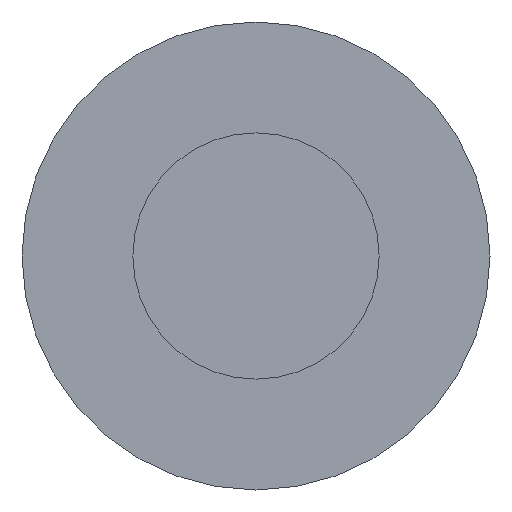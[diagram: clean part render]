
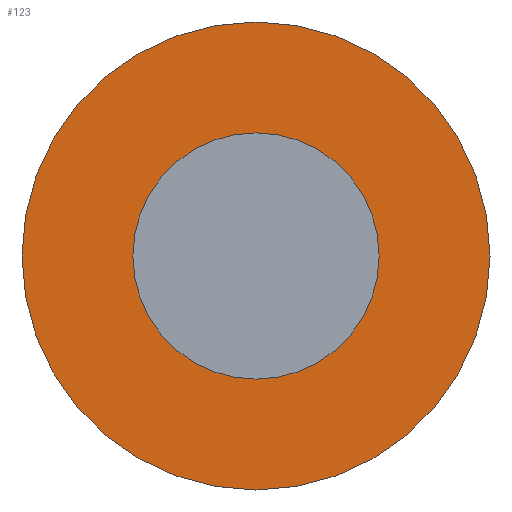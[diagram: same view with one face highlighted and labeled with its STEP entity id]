
A CAD part, front view. The second image highlights one B-rep face of the part: STEP entity #123.
In plain terms, the highlighted planar face has unit normal (0, -1, 0).
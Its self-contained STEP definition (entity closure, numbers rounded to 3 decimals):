
#39 = EDGE_CURVE('',#40,#40,#42,.T.);
#40 = VERTEX_POINT('',#41);
#41 = CARTESIAN_POINT('',(-32.1,11.4,61.5));
#42 = SURFACE_CURVE('',#43,(#48,#60),.PCURVE_S1.);
#43 = CIRCLE('',#44,1.9);
#44 = AXIS2_PLACEMENT_3D('',#45,#46,#47);
#45 = CARTESIAN_POINT('',(-34.,11.4,61.5));
#46 = DIRECTION('',(0.,-1.,0.));
#47 = DIRECTION('',(1.,0.,0.));
#48 = PCURVE('',#49,#54);
#49 = CYLINDRICAL_SURFACE('',#50,1.9);
#50 = AXIS2_PLACEMENT_3D('',#51,#52,#53);
#51 = CARTESIAN_POINT('',(-34.,13.4,61.5));
#52 = DIRECTION('',(0.,-1.,0.));
#53 = DIRECTION('',(1.,0.,0.));
#54 = DEFINITIONAL_REPRESENTATION('',(#55),#59);
#55 = LINE('',#56,#57);
#56 = CARTESIAN_POINT('',(0.,2.));
#57 = VECTOR('',#58,1.);
#58 = DIRECTION('',(1.,0.));
#59 = ( GEOMETRIC_REPRESENTATION_CONTEXT(2) 
PARAMETRIC_REPRESENTATION_CONTEXT() REPRESENTATION_CONTEXT('2D SPACE',''
  ) );
#60 = PCURVE('',#61,#66);
#61 = PLANE('',#62);
#62 = AXIS2_PLACEMENT_3D('',#63,#64,#65);
#63 = CARTESIAN_POINT('',(-34.,11.4,61.5));
#64 = DIRECTION('',(0.,-1.,0.));
#65 = DIRECTION('',(1.,0.,0.));
#66 = DEFINITIONAL_REPRESENTATION('',(#67),#71);
#67 = CIRCLE('',#68,1.9);
#68 = AXIS2_PLACEMENT_2D('',#69,#70);
#69 = CARTESIAN_POINT('',(0.,0.));
#70 = DIRECTION('',(1.,0.));
#71 = ( GEOMETRIC_REPRESENTATION_CONTEXT(2) 
PARAMETRIC_REPRESENTATION_CONTEXT() REPRESENTATION_CONTEXT('2D SPACE',''
  ) );
#123 = ADVANCED_FACE('',(#124,#127),#61,.T.);
#124 = FACE_BOUND('',#125,.T.);
#125 = EDGE_LOOP('',(#126));
#126 = ORIENTED_EDGE('',*,*,#39,.T.);
#127 = FACE_BOUND('',#128,.T.);
#128 = EDGE_LOOP('',(#129));
#129 = ORIENTED_EDGE('',*,*,#130,.F.);
#130 = EDGE_CURVE('',#131,#131,#133,.T.);
#131 = VERTEX_POINT('',#132);
#132 = CARTESIAN_POINT('',(-33.,11.4,61.5));
#133 = SURFACE_CURVE('',#134,(#139,#146),.PCURVE_S1.);
#134 = CIRCLE('',#135,1.);
#135 = AXIS2_PLACEMENT_3D('',#136,#137,#138);
#136 = CARTESIAN_POINT('',(-34.,11.4,61.5));
#137 = DIRECTION('',(0.,-1.,0.));
#138 = DIRECTION('',(1.,0.,0.));
#139 = PCURVE('',#61,#140);
#140 = DEFINITIONAL_REPRESENTATION('',(#141),#145);
#141 = CIRCLE('',#142,1.);
#142 = AXIS2_PLACEMENT_2D('',#143,#144);
#143 = CARTESIAN_POINT('',(0.,0.));
#144 = DIRECTION('',(1.,0.));
#145 = ( GEOMETRIC_REPRESENTATION_CONTEXT(2) 
PARAMETRIC_REPRESENTATION_CONTEXT() REPRESENTATION_CONTEXT('2D SPACE',''
  ) );
#146 = PCURVE('',#147,#152);
#147 = CYLINDRICAL_SURFACE('',#148,1.);
#148 = AXIS2_PLACEMENT_3D('',#149,#150,#151);
#149 = CARTESIAN_POINT('',(-34.,11.4,61.5));
#150 = DIRECTION('',(0.,-1.,0.));
#151 = DIRECTION('',(1.,0.,0.));
#152 = DEFINITIONAL_REPRESENTATION('',(#153),#157);
#153 = LINE('',#154,#155);
#154 = CARTESIAN_POINT('',(0.,0.));
#155 = VECTOR('',#156,1.);
#156 = DIRECTION('',(1.,0.));
#157 = ( GEOMETRIC_REPRESENTATION_CONTEXT(2) 
PARAMETRIC_REPRESENTATION_CONTEXT() REPRESENTATION_CONTEXT('2D SPACE',''
  ) );
